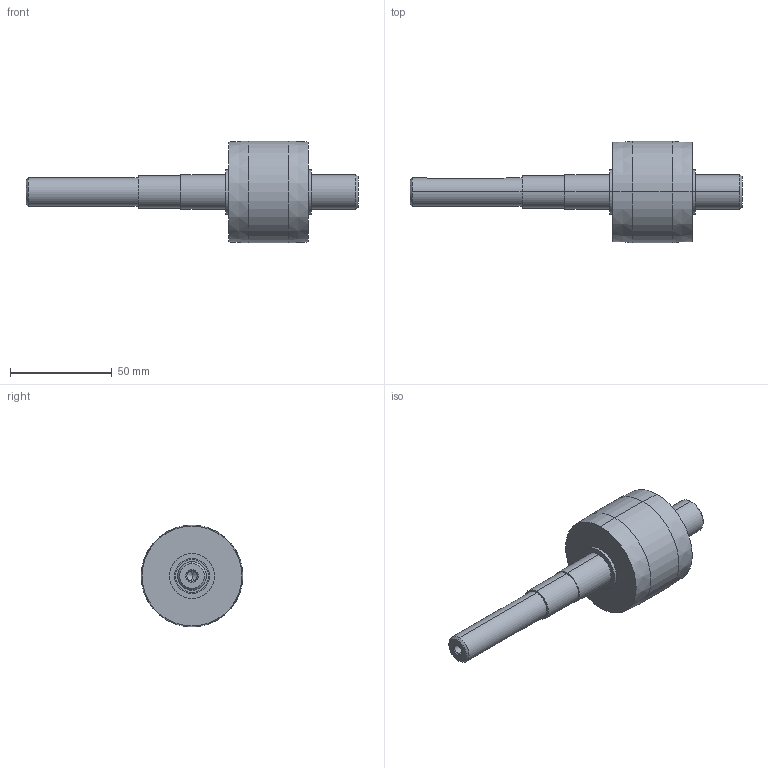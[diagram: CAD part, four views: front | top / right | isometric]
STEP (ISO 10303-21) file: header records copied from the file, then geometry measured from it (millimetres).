
FILE_DESCRIPTION (( 'STEP AP203' ), '1' );
FILE_NAME ('084.815.110-1.STEP', '2013-01-29T13:00:08', ( 'Alusic' ), ( 'Alusic' ), 'SwSTEP 2.0', 'SolidWorks 2011', '' );
FILE_SCHEMA (( 'CONFIG_CONTROL_DESIGN' ));
Length unit declared in the file: millimetre
Products named in the file (1): 084.815.110-1
Bounding box: 163 x 50 x 50 mm (x, y, z)
Volume: 98852.5 mm3; surface area: 16426.4 mm2
Topology: 1 solids, 1 shells, 41 faces, 84 edges, 51 vertices
Faces by surface type: cylinder 18, cone 12, plane 11
Entity records: 1207 total; most frequent: CARTESIAN_POINT 237, DIRECTION 208, ORIENTED_EDGE 164, AXIS2_PLACEMENT_3D 86, EDGE_CURVE 82, VERTEX_POINT 51, EDGE_LOOP 49, CIRCLE 44
